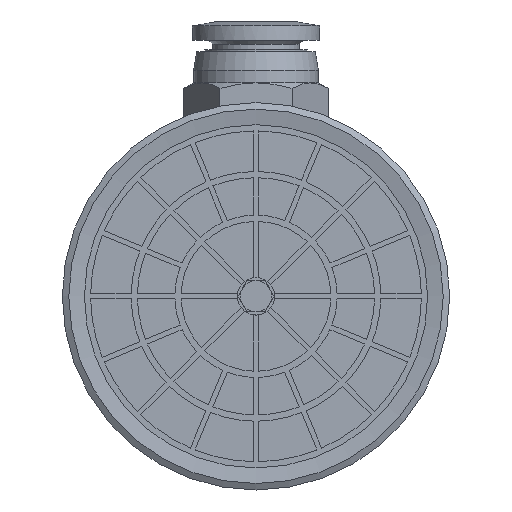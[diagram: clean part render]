
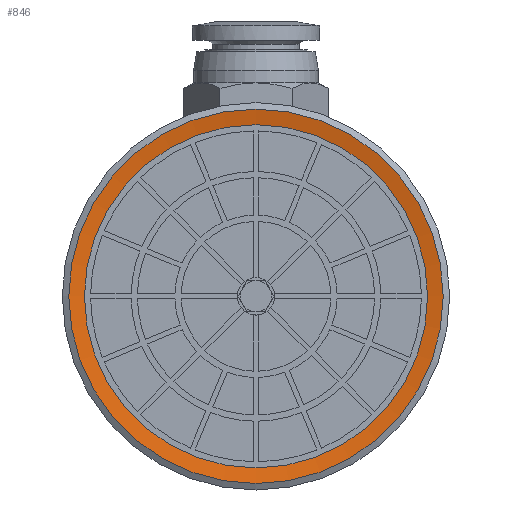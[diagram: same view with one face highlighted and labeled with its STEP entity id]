
A CAD part, front view. The second image highlights one B-rep face of the part: STEP entity #846.
In plain terms, the highlighted conical face has half-angle 80 degrees and reference radius 15 mm.
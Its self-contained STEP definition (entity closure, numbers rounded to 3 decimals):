
#846=ADVANCED_FACE('',(#1666,#1667),#1668,.F.);
#1666=FACE_BOUND('',#2568,.T.);
#1667=FACE_OUTER_BOUND('',#2569,.T.);
#1668=CONICAL_SURFACE('',#2570,15.0,1.396);
#2568=EDGE_LOOP('',(#5393));
#2569=EDGE_LOOP('',(#5394));
#2570=AXIS2_PLACEMENT_3D('',#5395,#5396,#5397);
#5393=ORIENTED_EDGE('',*,*,#6505,.T.);
#5394=ORIENTED_EDGE('',*,*,#6493,.F.);
#5395=CARTESIAN_POINT('',(0.0,0.,0.));
#5396=DIRECTION('',(0.0,0.,-1.0));
#5397=DIRECTION('',(0.0,1.0,0.));
#6493=EDGE_CURVE('',#7831,#7831,#7832,.T.);
#6505=EDGE_CURVE('',#7844,#7844,#7845,.T.);
#7831=VERTEX_POINT('',#10071);
#7832=CIRCLE('',#10072,15.0);
#7844=VERTEX_POINT('',#10091);
#7845=CIRCLE('',#10092,13.75);
#10071=CARTESIAN_POINT('',(0.0,-15.0,0.));
#10072=AXIS2_PLACEMENT_3D('',#11745,#11746,#11747);
#10091=CARTESIAN_POINT('',(0.0,-13.75,0.22));
#10092=AXIS2_PLACEMENT_3D('',#11767,#11768,#11769);
#11745=CARTESIAN_POINT('',(0.0,0.,0.));
#11746=DIRECTION('',(0.0,0.,1.0));
#11747=DIRECTION('',(0.0,-1.0,0.));
#11767=CARTESIAN_POINT('',(0.0,0.,0.22));
#11768=DIRECTION('',(0.0,0.,1.0));
#11769=DIRECTION('',(0.0,-1.0,0.));
